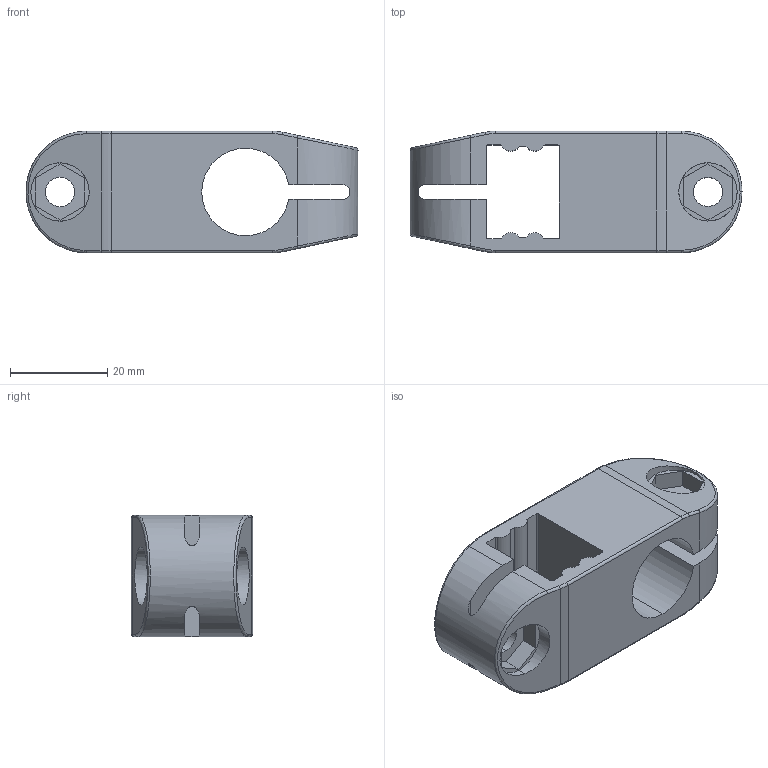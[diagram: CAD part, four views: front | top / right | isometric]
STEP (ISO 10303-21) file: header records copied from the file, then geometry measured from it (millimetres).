
FILE_DESCRIPTION (( 'STEP AP214' ), '1' );
FILE_NAME ('FGRB 18X20T.step', '2017-04-05T07:37:41', ( '' ), ( '' ), 'SwSTEP 2.0', 'SolidWorks 2015', '' );
FILE_SCHEMA (( 'AUTOMOTIVE_DESIGN' ));
Length unit declared in the file: millimetre
Products named in the file (1): FGRB 18X20T
Bounding box: 68.3 x 25 x 25 mm (x, y, z)
Volume: 19760.8 mm3; surface area: 10666.8 mm2
Topology: 1 solids, 1 shells, 118 faces, 312 edges, 200 vertices
Faces by surface type: plane 53, cylinder 51, torus 8, bspline 6
Entity records: 3996 total; most frequent: CARTESIAN_POINT 1013, ORIENTED_EDGE 624, DIRECTION 618, EDGE_CURVE 312, AXIS2_PLACEMENT_3D 217, VERTEX_POINT 200, LINE 184, VECTOR 184
